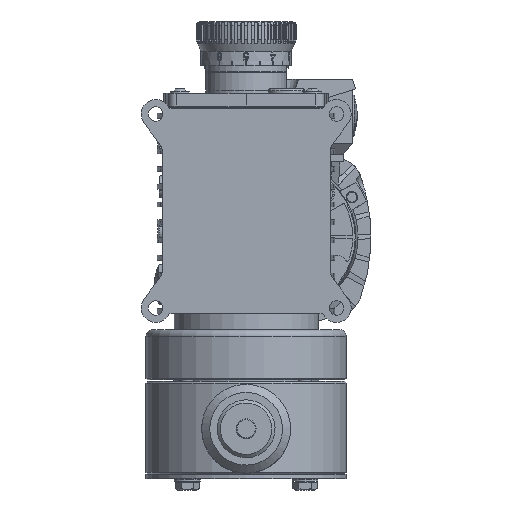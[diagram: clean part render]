
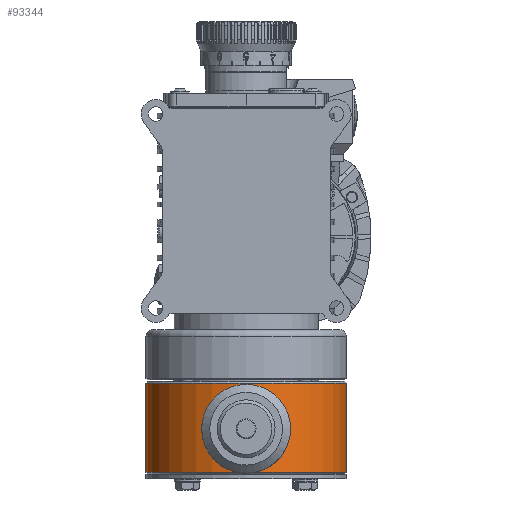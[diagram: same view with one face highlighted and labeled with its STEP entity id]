
A CAD part, front view. The second image highlights one B-rep face of the part: STEP entity #93344.
In plain terms, the highlighted cylindrical face has radius 62 mm (diameter 124 mm), a full revolution.
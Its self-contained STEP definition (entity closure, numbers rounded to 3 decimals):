
#1814 = ORIENTED_EDGE ( 'NONE', *, *, #43634, .F. ) ;
#7018 = FACE_OUTER_BOUND ( 'NONE', #28407, .T. ) ;
#8690 = VERTEX_POINT ( 'NONE', #68842 ) ;
#22653 = CARTESIAN_POINT ( 'NONE',  ( -3.135, -34.839, -168.05 ) ) ;
#22948 = CIRCLE ( 'NONE', #91118, 62. ) ;
#26696 = CYLINDRICAL_SURFACE ( 'NONE', #59453, 62. ) ;
#28407 = EDGE_LOOP ( 'NONE', ( #52103 ) ) ;
#33401 = DIRECTION ( 'NONE',  ( 0., 0., 1. ) ) ;
#39146 = CARTESIAN_POINT ( 'NONE',  ( -3.135, 27.161, -112.75 ) ) ;
#43634 = EDGE_CURVE ( 'NONE', #8690, #8690, #64034, .T. ) ;
#47523 = DIRECTION ( 'NONE',  ( 0., -1., 0. ) ) ;
#50459 = AXIS2_PLACEMENT_3D ( 'NONE', #39146, #97654, #47523 ) ;
#52103 = ORIENTED_EDGE ( 'NONE', *, *, #84711, .T. ) ;
#59453 = AXIS2_PLACEMENT_3D ( 'NONE', #69011, #85881, #94302 ) ;
#64034 = CIRCLE ( 'NONE', #50459, 62. ) ;
#65048 = VERTEX_POINT ( 'NONE', #22653 ) ;
#68842 = CARTESIAN_POINT ( 'NONE',  ( -3.135, -34.839, -112.75 ) ) ;
#69011 = CARTESIAN_POINT ( 'NONE',  ( -3.135, 27.161, -109.05 ) ) ;
#83599 = CARTESIAN_POINT ( 'NONE',  ( -3.135, 27.161, -168.05 ) ) ;
#84711 = EDGE_CURVE ( 'NONE', #65048, #65048, #22948, .T. ) ;
#85881 = DIRECTION ( 'NONE',  ( 0., 0., 1. ) ) ;
#91118 = AXIS2_PLACEMENT_3D ( 'NONE', #83599, #33401, #92009 ) ;
#92009 = DIRECTION ( 'NONE',  ( 0., -1., 0. ) ) ;
#93344 = ADVANCED_FACE ( 'NONE', ( #93545, #7018 ), #26696, .T. ) ;
#93545 = FACE_OUTER_BOUND ( 'NONE', #95137, .T. ) ;
#94302 = DIRECTION ( 'NONE',  ( 0., -1., 0. ) ) ;
#95137 = EDGE_LOOP ( 'NONE', ( #1814 ) ) ;
#97654 = DIRECTION ( 'NONE',  ( 0., 0., 1. ) ) ;
